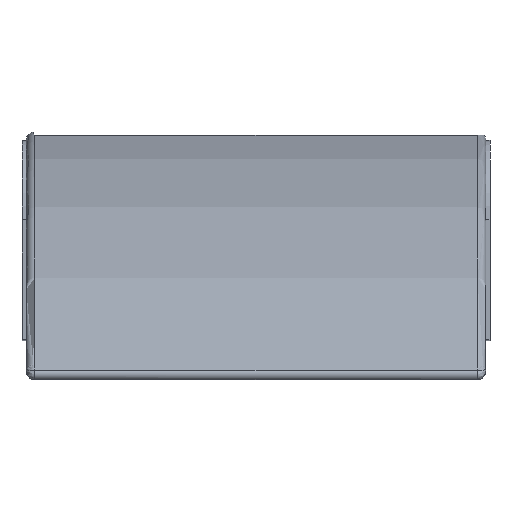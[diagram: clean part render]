
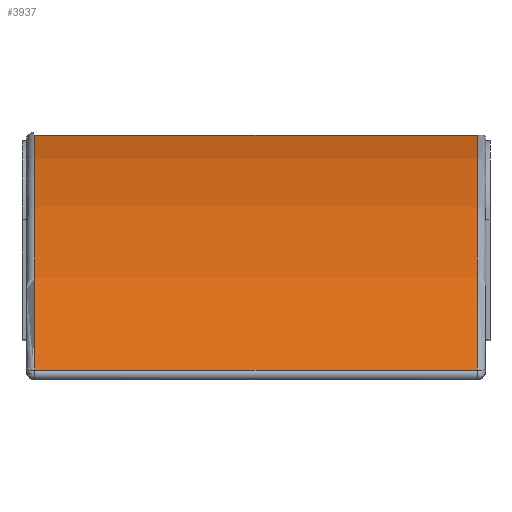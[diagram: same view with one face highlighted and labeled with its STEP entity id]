
A CAD part, front view. The second image highlights one B-rep face of the part: STEP entity #3937.
In plain terms, the highlighted cylindrical face has radius 191.659 mm (diameter 383.318 mm), a partial arc.
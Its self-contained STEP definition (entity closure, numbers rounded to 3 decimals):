
#3189=CARTESIAN_POINT('Vertex',(-39.75,120.628,-5.223)) ;
#3205=CARTESIAN_POINT('Vertex',(-39.75,-120.628,-5.223)) ;
#3208=CARTESIAN_POINT('Axis2P3D Location',(-39.75,0.,-154.159)) ;
#3895=CARTESIAN_POINT('Line Origine',(0.,120.628,-5.223)) ;
#3899=CARTESIAN_POINT('Vertex',(39.75,120.628,-5.223)) ;
#3914=CARTESIAN_POINT('Axis2P3D Location',(0.,0.,-154.159)) ;
#3919=CARTESIAN_POINT('Line Origine',(0.,-120.628,-5.223)) ;
#3923=CARTESIAN_POINT('Vertex',(39.75,-120.628,-5.223)) ;
#3926=CARTESIAN_POINT('Axis2P3D Location',(39.75,0.,-154.159)) ;
#3209=DIRECTION('Axis2P3D Direction',(1.,-0.,0.)) ;
#3896=DIRECTION('Vector Direction',(-1.,0.,0.)) ;
#3915=DIRECTION('Axis2P3D Direction',(1.,0.,0.)) ;
#3916=DIRECTION('Axis2P3D XDirection',(0.,0.,1.)) ;
#3920=DIRECTION('Vector Direction',(1.,0.,0.)) ;
#3927=DIRECTION('Axis2P3D Direction',(1.,0.,0.)) ;
#3210=AXIS2_PLACEMENT_3D('Circle Axis2P3D',#3208,#3209,$) ;
#3917=AXIS2_PLACEMENT_3D('Cylinder Axis2P3D',#3914,#3915,#3916) ;
#3928=AXIS2_PLACEMENT_3D('Circle Axis2P3D',#3926,#3927,$) ;
#3932=ORIENTED_EDGE('',*,*,#3901,.F.) ;
#3933=ORIENTED_EDGE('',*,*,#3212,.F.) ;
#3934=ORIENTED_EDGE('',*,*,#3925,.T.) ;
#3935=ORIENTED_EDGE('',*,*,#3930,.T.) ;
#3897=VECTOR('Line Direction',#3896,1.) ;
#3921=VECTOR('Line Direction',#3920,1.) ;
#3937=ADVANCED_FACE('PartBody',(#3936),#3918,.T.) ;
#3211=CIRCLE('generated circle',#3210,191.659) ;
#3929=CIRCLE('generated circle',#3928,191.659) ;
#3918=CYLINDRICAL_SURFACE('generated cylinder',#3917,191.659) ;
#3212=EDGE_CURVE('',#3206,#3190,#3211,.F.) ;
#3901=EDGE_CURVE('',#3190,#3900,#3898,.F.) ;
#3925=EDGE_CURVE('',#3206,#3924,#3922,.T.) ;
#3930=EDGE_CURVE('',#3924,#3900,#3929,.F.) ;
#3931=EDGE_LOOP('',(#3932,#3933,#3934,#3935)) ;
#3936=FACE_OUTER_BOUND('',#3931,.T.) ;
#3898=LINE('Line',#3895,#3897) ;
#3922=LINE('Line',#3919,#3921) ;
#3190=VERTEX_POINT('',#3189) ;
#3206=VERTEX_POINT('',#3205) ;
#3900=VERTEX_POINT('',#3899) ;
#3924=VERTEX_POINT('',#3923) ;
